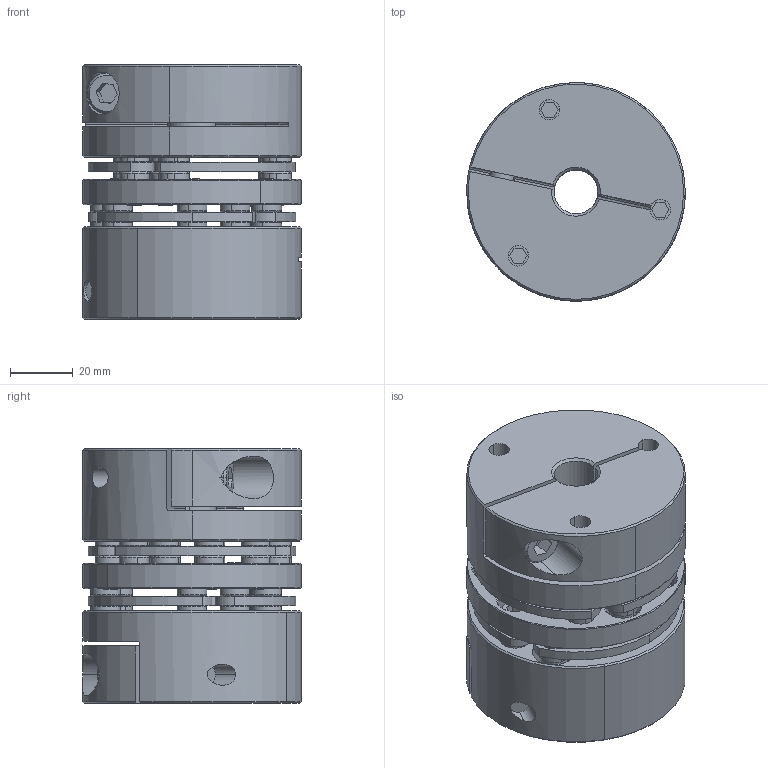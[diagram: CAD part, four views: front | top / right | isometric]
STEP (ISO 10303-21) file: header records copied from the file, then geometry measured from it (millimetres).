
FILE_DESCRIPTION((''),'2;1');
FILE_NAME('6P26-A1C','2019-02-14T',('SYSTEM'),(''),'PRO/ENGINEER BY PARAMETRIC TECHNOLOGY CORPORATION, 2016360','PRO/ENGINEER BY PARAMETRIC TECHNOLOGY CORPORATION, 2016360','');
FILE_SCHEMA(('AUTOMOTIVE_DESIGN { 1 0 10303 214 1 1 1 1 }'));
Length unit declared in the file: inch
Products named in the file (1): 6P26-A1C
Bounding box: 69.5 x 69.5 x 81.02 mm (x, y, z)
Volume: 230774.6 mm3; surface area: 76434.5 mm2
Topology: 1 solids, 17 shells, 1172 faces, 3304 edges, 2237 vertices
Faces by surface type: cylinder 523, cone 290, plane 281, torus 78
Entity records: 49933 total; most frequent: DIRECTION 7689, CARTESIAN_POINT 7079, ORIENTED_EDGE 6574, PRESENTATION_STYLE_ASSIGNMENT 3331, AXIS2_PLACEMENT_3D 3292, STYLED_ITEM 3288, CURVE_STYLE 3287, EDGE_CURVE 3287
